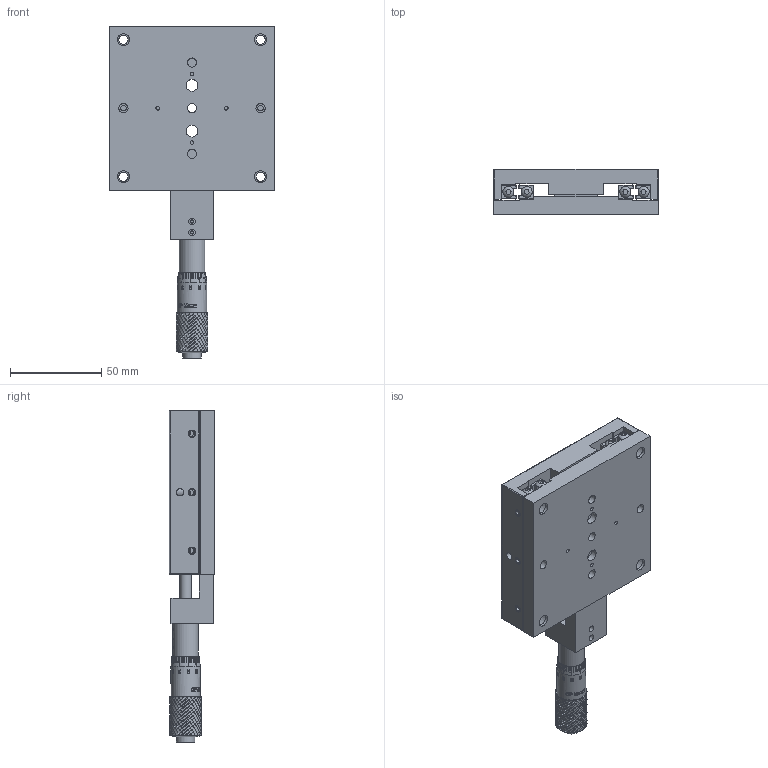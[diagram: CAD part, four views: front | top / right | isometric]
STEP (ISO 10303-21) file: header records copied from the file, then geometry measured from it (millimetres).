
FILE_DESCRIPTION (( 'STEP AP203' ), '1' );
FILE_NAME ('TCS90X-1.step', '2017-01-10T09:18:31', ( '¦K¬P' ), ( '' ), 'SwSTEP 2.0', 'SolidWorks 2012', '' );
FILE_SCHEMA (( 'CONFIG_CONTROL_DESIGN' ));
Length unit declared in the file: millimetre
Products named in the file (1): TCS90X-1
Bounding box: 90 x 25 x 181.7 mm (x, y, z)
Surface area: 64432.5 mm2 (no closed solid volume)
Topology: 0 solids, 74 shells, 1915 faces, 7108 edges, 5108 vertices
Faces by surface type: bspline 989, cylinder 643, plane 252, cone 18, torus 8, sphere 5
Full cylindrical faces by diameter (mm): 1.4 x1, 2 x6, 3 x4, 3.3 x8, 3.5 x2, 4 x7, 5 x18, 6 x2, 6.5 x7, 8 x1, 10 x2, 11 x8, 14.8 x1, 16 x1
Entity records: 183081 total; most frequent: CARTESIAN_POINT 139922, ORIENTED_EDGE 12027, EDGE_CURVE 6998, VERTEX_POINT 5086, DIRECTION 4309, B_SPLINE_CURVE_WITH_KNOTS 2699, EDGE_LOOP 2233, FACE_OUTER_BOUND 1991
